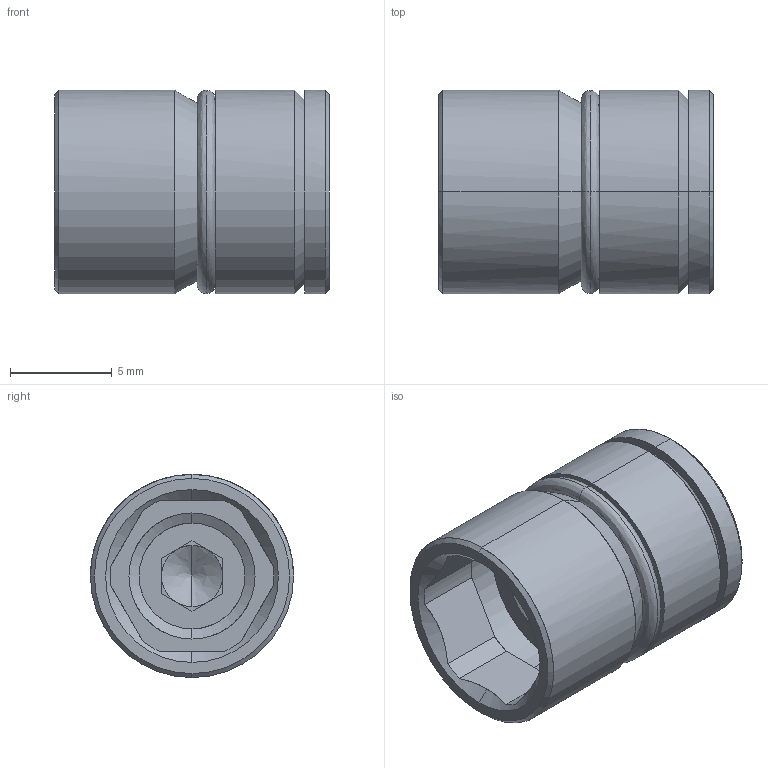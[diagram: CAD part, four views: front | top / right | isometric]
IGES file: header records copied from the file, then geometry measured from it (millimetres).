
Start section: START RECORD GO HERE.
Global section: file name: TRI-10C.igs; native system: DASSAULT SYSTEMES CATIA V5 R20 - www.3ds.com; preprocessor: CATIA Version 5 Release 20 ; author: Utente; organization: NB04-ASUS; date: 20210222.201244; units: millimetre
Bounding box: 13.5 x 10 x 10 mm (x, y, z)
Surface area: 826.4 mm2 (no closed solid volume)
Topology: 0 solids, 0 shells, 59 faces, 346 edges, 344 vertices
Faces by surface type: revolution 34, plane 25
